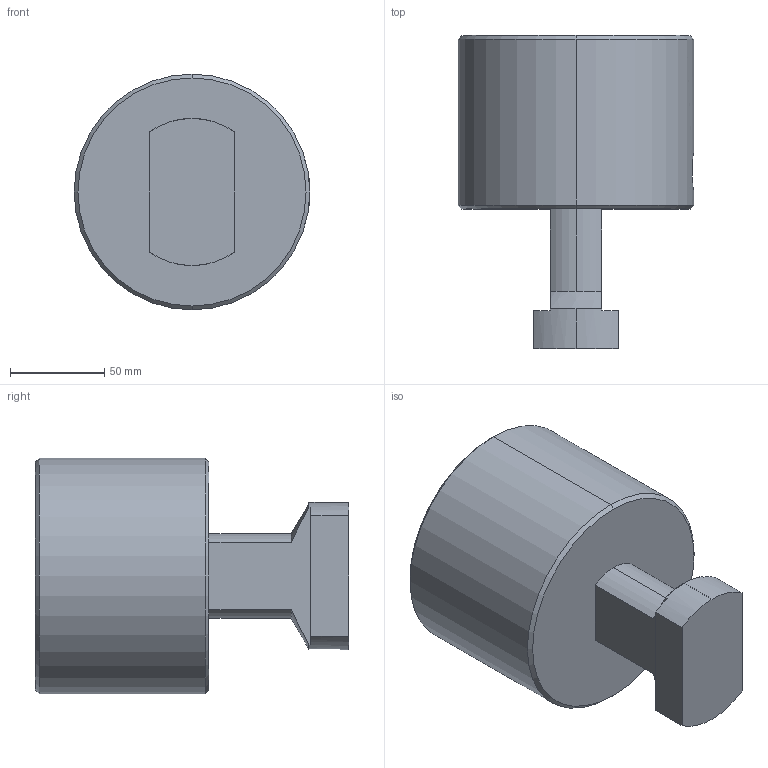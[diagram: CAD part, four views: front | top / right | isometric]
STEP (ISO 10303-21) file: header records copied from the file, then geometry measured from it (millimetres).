
FILE_DESCRIPTION (( 'STEP AP203' ), '1' );
FILE_NAME ('4650-611.STEP', '2016-01-29T10:23:04', ( '' ), ( '' ), 'SwSTEP 2.0', 'SolidWorks 2015', '' );
FILE_SCHEMA (( 'CONFIG_CONTROL_DESIGN' ));
Length unit declared in the file: millimetre
Products named in the file (1): 4650-611
Bounding box: 125 x 166 x 125 mm (x, y, z)
Volume: 1258312.4 mm3; surface area: 76355.4 mm2
Topology: 1 solids, 1 shells, 33 faces, 81 edges, 51 vertices
Faces by surface type: cylinder 12, plane 12, cone 9
Entity records: 1157 total; most frequent: CARTESIAN_POINT 289, DIRECTION 175, ORIENTED_EDGE 158, EDGE_CURVE 79, AXIS2_PLACEMENT_3D 68, VERTEX_POINT 51, VECTOR 39, LINE 39
